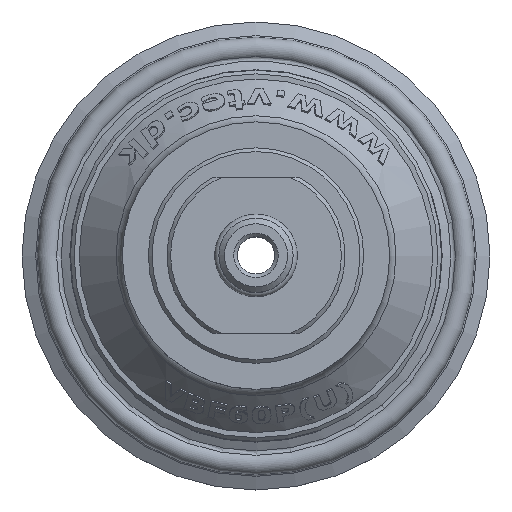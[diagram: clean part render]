
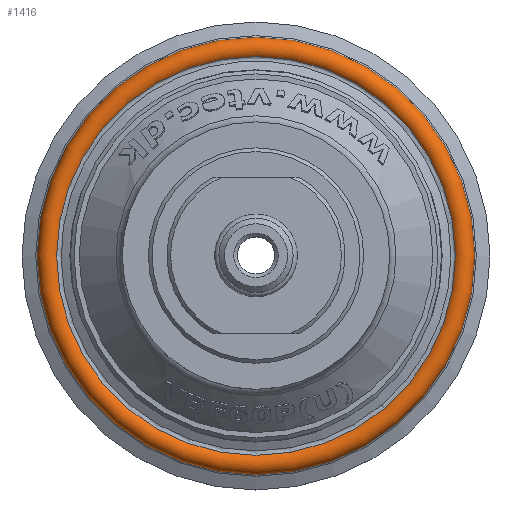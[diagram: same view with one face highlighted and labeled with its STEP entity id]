
A CAD part, top view. The second image highlights one B-rep face of the part: STEP entity #1416.
In plain terms, the highlighted toroidal (fillet/blend) face has major radius 27.948 mm and minor radius 1.5 mm.
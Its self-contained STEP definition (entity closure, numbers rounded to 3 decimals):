
#1416 = ADVANCED_FACE( '', ( #3036, #3037 ), #3038, .T. );
#3036 = FACE_OUTER_BOUND( '', #8951, .T. );
#3037 = FACE_OUTER_BOUND( '', #8952, .T. );
#3038 = TOROIDAL_SURFACE( '', #8953, 27.948, 1.5 );
#8951 = EDGE_LOOP( '', ( #13652 ) );
#8952 = EDGE_LOOP( '', ( #13653 ) );
#8953 = AXIS2_PLACEMENT_3D( '', #13654, #13655, #13656 );
#13652 = ORIENTED_EDGE( '', *, *, #15993, .T. );
#13653 = ORIENTED_EDGE( '', *, *, #15895, .F. );
#13654 = CARTESIAN_POINT( '', ( 0., 0., -18.984 ) );
#13655 = DIRECTION( '', ( 0., 0., 1. ) );
#13656 = DIRECTION( '', ( 1., 0., 0. ) );
#15895 = EDGE_CURVE( '', #18486, #18486, #18487, .T. );
#15993 = EDGE_CURVE( '', #18594, #18594, #18595, .T. );
#18486 = VERTEX_POINT( '', #27113 );
#18487 = CIRCLE( '', #27114, 26.842 );
#18594 = VERTEX_POINT( '', #27360 );
#18595 = CIRCLE( '', #27361, 29.407 );
#27113 = CARTESIAN_POINT( '', ( 26.842, 0., -17.971 ) );
#27114 = AXIS2_PLACEMENT_3D( '', #28499, #28500, #28501 );
#27360 = CARTESIAN_POINT( '', ( 29.407, 0., -19.335 ) );
#27361 = AXIS2_PLACEMENT_3D( '', #28528, #28529, #28530 );
#28499 = CARTESIAN_POINT( '', ( 0., 0., -17.971 ) );
#28500 = DIRECTION( '', ( 0., 0., 1. ) );
#28501 = DIRECTION( '', ( 1., 0., 0. ) );
#28528 = CARTESIAN_POINT( '', ( 0., 0., -19.335 ) );
#28529 = DIRECTION( '', ( 0., 0., 1. ) );
#28530 = DIRECTION( '', ( 1., 0., 0. ) );
